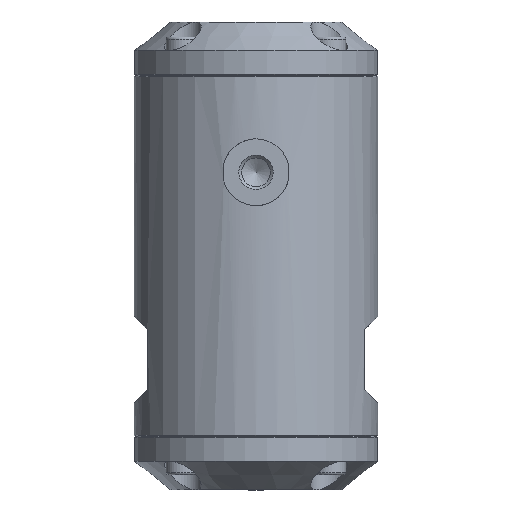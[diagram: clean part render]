
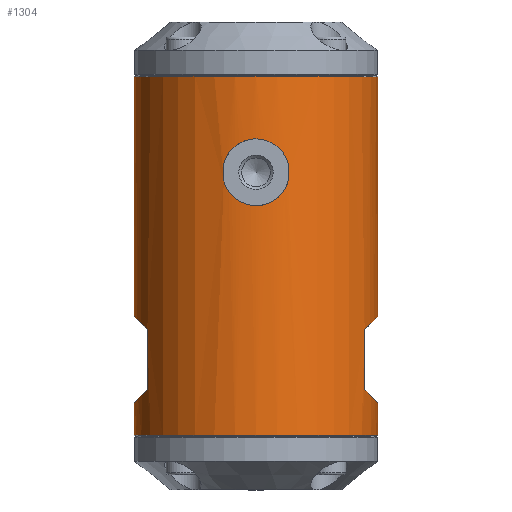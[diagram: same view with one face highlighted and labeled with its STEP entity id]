
A CAD part, top view. The second image highlights one B-rep face of the part: STEP entity #1304.
In plain terms, the highlighted cylindrical face has radius 36.5 mm (diameter 73 mm), a full revolution.
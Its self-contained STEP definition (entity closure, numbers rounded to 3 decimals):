
#31=ELLIPSE('',#4435,51.619,36.5);
#32=ELLIPSE('',#4436,51.619,36.5);
#33=ELLIPSE('',#4437,51.619,36.5);
#34=ELLIPSE('',#4438,51.619,36.5);
#43=B_SPLINE_CURVE_WITH_KNOTS('',3,(#6660,#6661,#6662,#6663,#6664,#6665,
#6666,#6667,#6668,#6669),.UNSPECIFIED.,.F.,.F.,(4,2,2,2,4),(0.,0.25,0.5,
0.75,1.),.UNSPECIFIED.);
#44=B_SPLINE_CURVE_WITH_KNOTS('',3,(#6674,#6675,#6676,#6677,#6678,#6679,
#6680,#6681,#6682,#6683),.UNSPECIFIED.,.F.,.F.,(4,2,2,2,4),(0.,0.25,0.5,
0.75,1.),.UNSPECIFIED.);
#197=LINE('',#6644,#351);
#198=LINE('',#6649,#352);
#199=LINE('',#6652,#353);
#200=LINE('',#6657,#354);
#201=LINE('',#6672,#355);
#202=LINE('',#6685,#356);
#351=VECTOR('',#5401,1.);
#352=VECTOR('',#5404,1.);
#353=VECTOR('',#5407,1.);
#354=VECTOR('',#5410,1.);
#355=VECTOR('',#5413,1.);
#356=VECTOR('',#5414,1.);
#665=CYLINDRICAL_SURFACE('',#4439,36.5);
#917=FACE_BOUND('',#1961,.T.);
#918=FACE_BOUND('',#1962,.T.);
#919=FACE_BOUND('',#1963,.T.);
#920=FACE_BOUND('',#1964,.T.);
#921=FACE_BOUND('',#1965,.T.);
#1304=ADVANCED_FACE('',(#917,#918,#919,#920,#921),#665,.T.);
#1961=EDGE_LOOP('',(#2681));
#1962=EDGE_LOOP('',(#2682));
#1963=EDGE_LOOP('',(#2683,#2684,#2685,#2686));
#1964=EDGE_LOOP('',(#2687,#2688,#2689,#2690));
#1965=EDGE_LOOP('',(#2691,#2692,#2693,#2694));
#2681=ORIENTED_EDGE('',*,*,#3628,.F.);
#2682=ORIENTED_EDGE('',*,*,#3629,.T.);
#2683=ORIENTED_EDGE('',*,*,#3630,.F.);
#2684=ORIENTED_EDGE('',*,*,#3631,.F.);
#2685=ORIENTED_EDGE('',*,*,#3632,.F.);
#2686=ORIENTED_EDGE('',*,*,#3633,.F.);
#2687=ORIENTED_EDGE('',*,*,#3634,.F.);
#2688=ORIENTED_EDGE('',*,*,#3635,.F.);
#2689=ORIENTED_EDGE('',*,*,#3636,.F.);
#2690=ORIENTED_EDGE('',*,*,#3637,.F.);
#2691=ORIENTED_EDGE('',*,*,#3638,.T.);
#2692=ORIENTED_EDGE('',*,*,#3639,.T.);
#2693=ORIENTED_EDGE('',*,*,#3640,.T.);
#2694=ORIENTED_EDGE('',*,*,#3641,.T.);
#3232=VERTEX_POINT('',#6641);
#3233=VERTEX_POINT('',#6643);
#3234=VERTEX_POINT('',#6645);
#3235=VERTEX_POINT('',#6646);
#3236=VERTEX_POINT('',#6648);
#3237=VERTEX_POINT('',#6650);
#3238=VERTEX_POINT('',#6653);
#3239=VERTEX_POINT('',#6654);
#3240=VERTEX_POINT('',#6656);
#3241=VERTEX_POINT('',#6658);
#3242=VERTEX_POINT('',#6670);
#3243=VERTEX_POINT('',#6671);
#3244=VERTEX_POINT('',#6673);
#3245=VERTEX_POINT('',#6684);
#3628=EDGE_CURVE('',#3232,#3232,#4017,.T.);
#3629=EDGE_CURVE('',#3233,#3233,#4018,.T.);
#3630=EDGE_CURVE('',#3234,#3235,#197,.T.);
#3631=EDGE_CURVE('',#3236,#3234,#31,.T.);
#3632=EDGE_CURVE('',#3237,#3236,#198,.T.);
#3633=EDGE_CURVE('',#3235,#3237,#32,.T.);
#3634=EDGE_CURVE('',#3238,#3239,#199,.T.);
#3635=EDGE_CURVE('',#3240,#3238,#33,.T.);
#3636=EDGE_CURVE('',#3241,#3240,#200,.T.);
#3637=EDGE_CURVE('',#3239,#3241,#34,.T.);
#3638=EDGE_CURVE('',#3242,#3243,#43,.T.);
#3639=EDGE_CURVE('',#3243,#3244,#201,.T.);
#3640=EDGE_CURVE('',#3244,#3245,#44,.T.);
#3641=EDGE_CURVE('',#3245,#3242,#202,.T.);
#4017=CIRCLE('',#4433,36.5);
#4018=CIRCLE('',#4434,36.5);
#4433=AXIS2_PLACEMENT_3D('',#6640,#5397,#5398);
#4434=AXIS2_PLACEMENT_3D('',#6642,#5399,#5400);
#4435=AXIS2_PLACEMENT_3D('',#6647,#5402,#5403);
#4436=AXIS2_PLACEMENT_3D('',#6651,#5405,#5406);
#4437=AXIS2_PLACEMENT_3D('',#6655,#5408,#5409);
#4438=AXIS2_PLACEMENT_3D('',#6659,#5411,#5412);
#4439=AXIS2_PLACEMENT_3D('',#6686,#5415,#5416);
#5397=DIRECTION('',(0.,-1.,0.));
#5398=DIRECTION('',(0.,0.,1.));
#5399=DIRECTION('',(0.,-1.,0.));
#5400=DIRECTION('',(0.,0.,1.));
#5401=DIRECTION('',(0.,-1.,0.));
#5402=DIRECTION('',(0.707,-0.707,0.));
#5403=DIRECTION('',(0.707,0.707,0.));
#5404=DIRECTION('',(0.,1.,0.));
#5405=DIRECTION('',(0.707,0.707,0.));
#5406=DIRECTION('',(-0.707,0.707,0.));
#5407=DIRECTION('',(0.,-1.,0.));
#5408=DIRECTION('',(-0.707,-0.707,0.));
#5409=DIRECTION('',(-0.707,0.707,0.));
#5410=DIRECTION('',(0.,1.,0.));
#5411=DIRECTION('',(-0.707,0.707,0.));
#5412=DIRECTION('',(0.707,0.707,0.));
#5413=DIRECTION('',(0.,-1.,0.));
#5414=DIRECTION('',(0.,1.,0.));
#5415=DIRECTION('',(0.,1.,0.));
#5416=DIRECTION('',(0.,0.,1.));
#6640=CARTESIAN_POINT('',(0.,-38.7,0.));
#6641=CARTESIAN_POINT('',(0.,-38.7,36.5));
#6642=CARTESIAN_POINT('',(0.,68.7,0.));
#6643=CARTESIAN_POINT('',(0.,68.7,36.5));
#6644=CARTESIAN_POINT('',(32.5,15.,16.613));
#6645=CARTESIAN_POINT('',(32.5,-7.,16.613));
#6646=CARTESIAN_POINT('',(32.5,-25.,16.613));
#6647=CARTESIAN_POINT('',(0.,-39.5,0.));
#6648=CARTESIAN_POINT('',(32.5,-7.,-16.613));
#6649=CARTESIAN_POINT('',(32.5,15.,-16.613));
#6650=CARTESIAN_POINT('',(32.5,-25.,-16.613));
#6651=CARTESIAN_POINT('',(0.,7.5,0.));
#6652=CARTESIAN_POINT('',(-32.5,15.,-16.613));
#6653=CARTESIAN_POINT('',(-32.5,-7.,-16.613));
#6654=CARTESIAN_POINT('',(-32.5,-25.,-16.613));
#6655=CARTESIAN_POINT('',(0.,-39.5,0.));
#6656=CARTESIAN_POINT('',(-32.5,-7.,16.613));
#6657=CARTESIAN_POINT('',(-32.5,15.,16.613));
#6658=CARTESIAN_POINT('',(-32.5,-25.,16.613));
#6659=CARTESIAN_POINT('',(0.,7.5,0.));
#6660=CARTESIAN_POINT('',(-9.655,42.606,35.2));
#6661=CARTESIAN_POINT('',(-9.08,44.736,35.358));
#6662=CARTESIAN_POINT('',(-7.825,46.599,35.695));
#6663=CARTESIAN_POINT('',(-4.361,49.26,36.281));
#6664=CARTESIAN_POINT('',(-2.206,49.998,36.499));
#6665=CARTESIAN_POINT('',(2.187,50.002,36.501));
#6666=CARTESIAN_POINT('',(4.353,49.262,36.282));
#6667=CARTESIAN_POINT('',(7.812,46.612,35.697));
#6668=CARTESIAN_POINT('',(9.08,44.735,35.358));
#6669=CARTESIAN_POINT('',(9.655,42.606,35.2));
#6670=CARTESIAN_POINT('',(-9.655,42.606,35.2));
#6671=CARTESIAN_POINT('',(9.655,42.606,35.2));
#6672=CARTESIAN_POINT('',(9.655,15.,35.2));
#6673=CARTESIAN_POINT('',(9.655,37.394,35.2));
#6674=CARTESIAN_POINT('',(9.655,37.394,35.2));
#6675=CARTESIAN_POINT('',(9.08,35.264,35.358));
#6676=CARTESIAN_POINT('',(7.825,33.401,35.695));
#6677=CARTESIAN_POINT('',(4.361,30.74,36.281));
#6678=CARTESIAN_POINT('',(2.206,30.002,36.499));
#6679=CARTESIAN_POINT('',(-2.187,29.998,36.501));
#6680=CARTESIAN_POINT('',(-4.353,30.738,36.282));
#6681=CARTESIAN_POINT('',(-7.812,33.388,35.697));
#6682=CARTESIAN_POINT('',(-9.08,35.265,35.358));
#6683=CARTESIAN_POINT('',(-9.655,37.394,35.2));
#6684=CARTESIAN_POINT('',(-9.655,37.394,35.2));
#6685=CARTESIAN_POINT('',(-9.655,15.,35.2));
#6686=CARTESIAN_POINT('',(0.,15.,0.));
